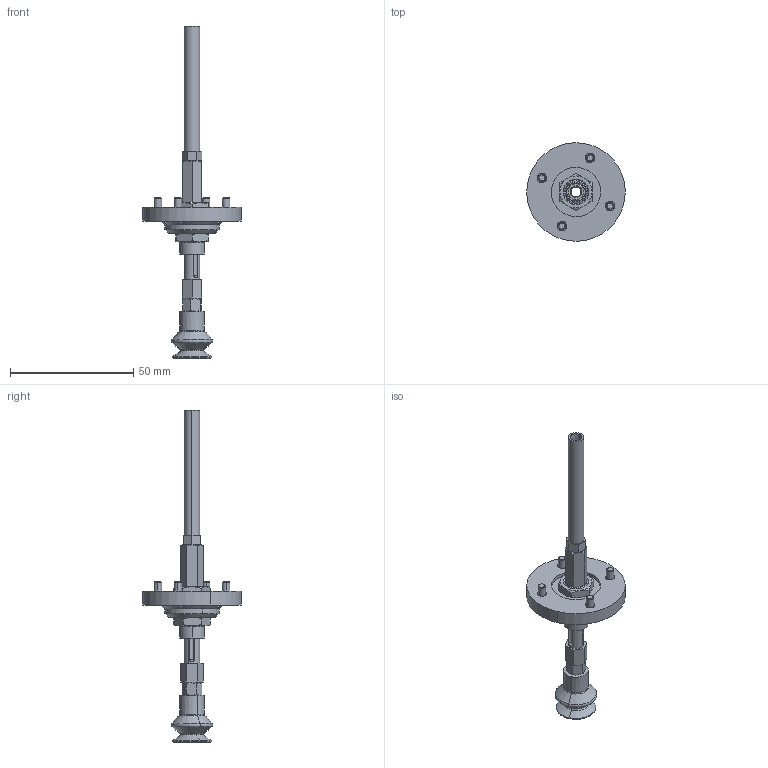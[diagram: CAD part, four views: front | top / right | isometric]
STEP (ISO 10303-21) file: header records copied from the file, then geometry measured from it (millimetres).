
FILE_DESCRIPTION (( 'STEP AP214' ), '1' );
FILE_NAME ('astorino_vacumGripper.STEP', '2024-05-02T08:33:33', ( '' ), ( '' ), 'SwSTEP 2.0', 'SolidWorks 2021', '' );
FILE_SCHEMA (( 'AUTOMOTIVE_DESIGN' ));
Length unit declared in the file: millimetre
Products named in the file (1): astorino_vacumGripper
Bounding box: 39.96 x 39.96 x 134.8 mm (x, y, z)
Surface area: 9906.4 mm2 (no closed solid volume)
Topology: 0 solids, 19 shells, 256 faces, 673 edges, 411 vertices
Faces by surface type: plane 96, cone 83, cylinder 50, torus 24, bspline 3
Entity records: 10834 total; most frequent: CARTESIAN_POINT 1844, DIRECTION 1362, ORIENTED_EDGE 1160, EDGE_CURVE 665, AXIS2_PLACEMENT_3D 547, VERTEX_POINT 411, CIRCLE 293, EDGE_LOOP 283
